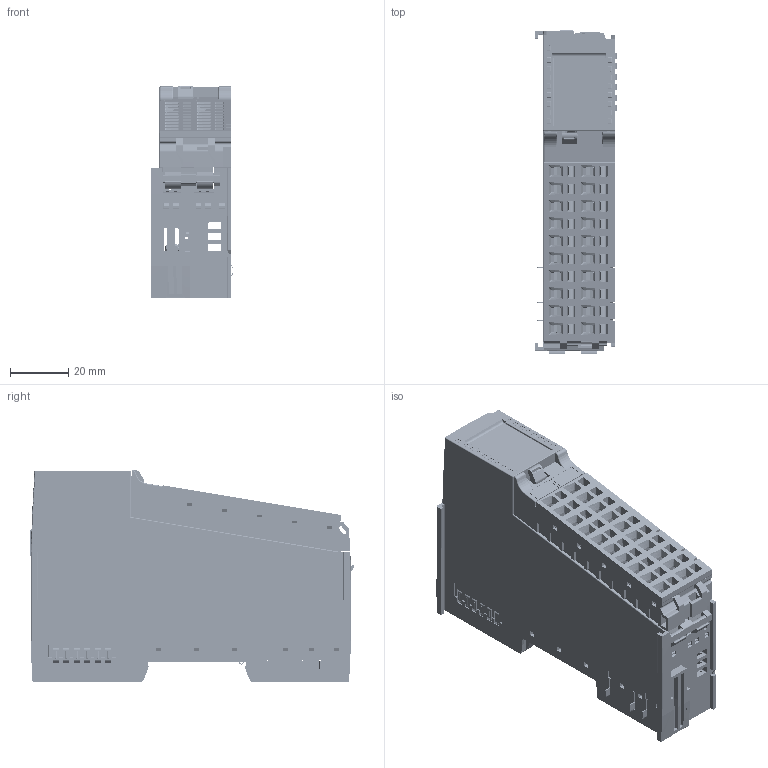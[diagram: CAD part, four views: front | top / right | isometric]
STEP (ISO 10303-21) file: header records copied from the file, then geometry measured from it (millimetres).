
FILE_DESCRIPTION (( 'STEP AP214' ), '1' );
FILE_NAME ('Standart_EA_25er.STEP', '2019-07-17T10:15:58', ( '' ), ( '' ), 'SwSTEP 2.0', 'SolidWorks 2019', '' );
FILE_SCHEMA (( 'AUTOMOTIVE_DESIGN' ));
Length unit declared in the file: millimetre
Products named in the file (130): Basismodul_25_Standart_25er; ZF1,5_TB20_1; Federn_zusammen; Links_geschlossen_14_21_optim_Zchng; R點kteil_25_R乧kteil_25er; Deckplatte Stecker; Messer_Tulpe_lang; Messer_L鰐_25_21_Messer_L攖_25_21; Rechts_geschlossen_25_3; Lichtf黨rung_24_Lichtf乭rung_24; Kopf_PH_3; Stecker_25_mitFedern_20polig_mitFedern; Lichtf黨rung_23_rechts_Lichtf乭rung_23_rechts; SMSE_EA_21; Tulpe_Power_L飆_21_optimiert; Links_geschlossen_14_21_optim_Zchng_Links_geschlossen_14_21; Beschriftungsstreifen_25er_Beschriftungsstreifen_25er; Schieber_20; Standart_EA_25er; Schienenkralle_entspannt_1; Messer_L飆_25_21; Unterteil_25_20_Basaltgrau_Unterteil_25_20; Geh_Sockel_25_21; Deckel_25_20_Deckel_25_20; SMSE_EA_21_SMSE_EA_21; Auswerfer_23; Kopf_PH_3_Kopf_PH_3; Vorderteil_Stecker_25_Vorderteil_25; Unterteil_25_20; Kodierer_1_Kodierer_1; Lichtführung_23_rechts; Schirmkontakt_5_Schirmkontakt_5; Schienenkralle_entspannt_1_Schienenkralle_entspannt_1; Abdeckung_Sockel_25_21_optimiert_Abdeckung _Sockel_25_21; Geh_Sockel_25_21_Geh_Sockel_25_21; Gehäuse_25_20; Schieberhebel_20; Schieber_20_Schieber_20; Kodierer_1; Oberteil_Stecker_25_23_Staubgrau_Oberteil_Stecker_25_23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
Assembly tree (105 placements, depth 4):
  ZF1,5_TB20_1
  Links_geschlossen_14_21_optim_Zchng
  ZF1,5_TB20_1
  ZF1,5_TB20_1
  Deckplatte Stecker
Bounding box: 28.4 x 111.3 x 72.69 mm (x, y, z)
Volume: 60536.2 mm3; surface area: 111555.7 mm2
Topology: 78 solids, 78 shells, 14663 faces, 42032 edges, 27401 vertices
Faces by surface type: plane 9289, cylinder 4880, bspline 297, torus 89, sphere 76, cone 32
Entity records: 332341 total; most frequent: CARTESIAN_POINT 72079, ORIENTED_EDGE 56446, DIRECTION 49651, EDGE_CURVE 28223, VECTOR 21251, LINE 21251, VERTEX_POINT 18476, AXIS2_PLACEMENT_3D 14200
